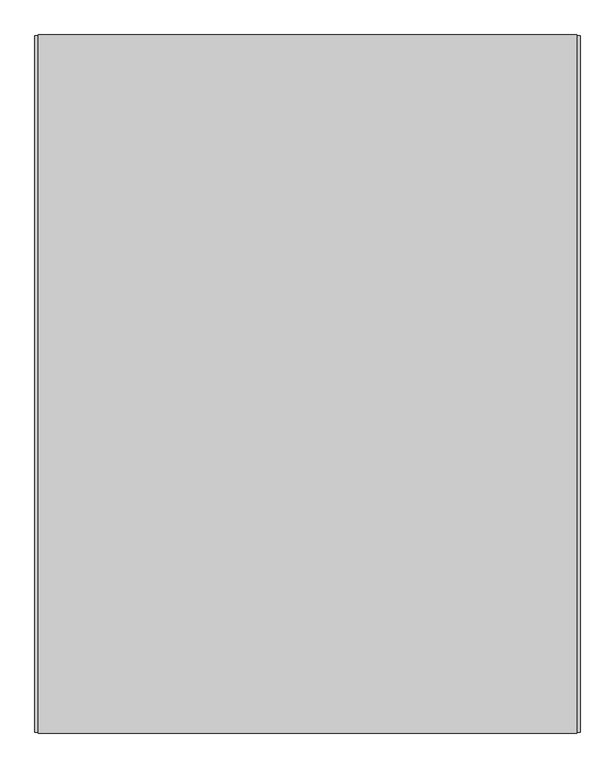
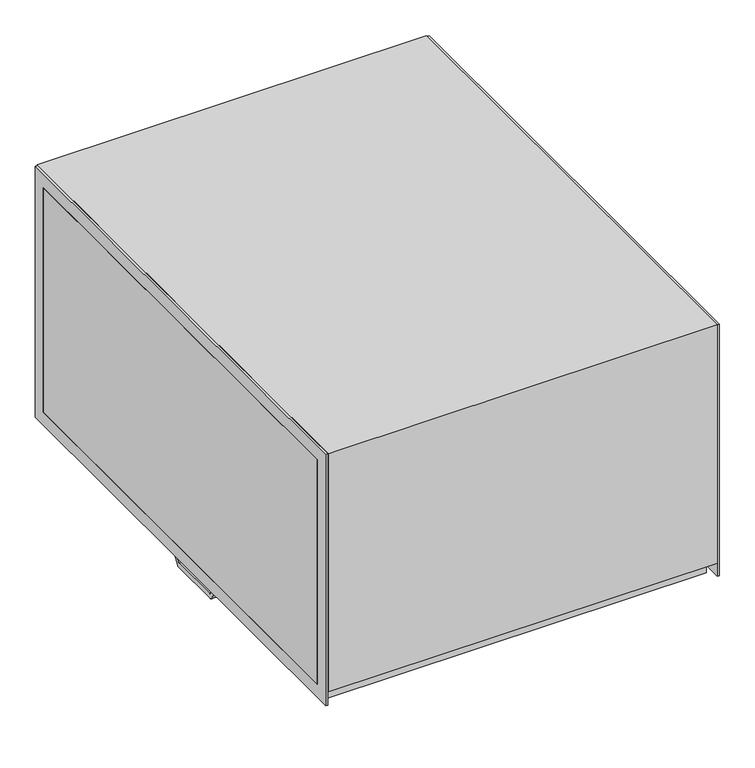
"""IFC4 building model written with IfcOpenShell, lengths in millimetres: unitary equipment geometry, VE-Wentylator-ParaForma-Harmann-DRBI_EC-Nawiewny : 100/50/11500TEC."""

from ifc_helpers import new_model, si_unit, point, frame, frame_2d, origin, place, context, project, spatial, polyline, circle_curve, trimmed, segment, composite_curve, outline, extrude, faceted_brep, source, transform, mapped, element, save


def unitary_equipment_98ae8f91(model_context):
    return source(origin(), model_context, "Body", "SolidModel", [
        faceted_brep([(-402.7, -497.5, -290.4), (-402.7, -497.5, -250.0), (-402.7, 497.5, -250.0), (-402.7, 497.5, -290.4), (406.3, -497.5, -290.4), (406.3, 497.5, -290.4), (406.3, 497.5, -250.0), (406.3, -497.5, -250.0), (-410.0, -531.0, -250.0), (-410.0, -531.0, 281.0), (-410.0, 531.0, 281.0), (-410.0, 531.0, -250.0), (-410.0, 500.0, -250.0), (-410.0, 500.0, 250.0), (-410.0, -500.0, 250.0), (-410.0, -500.0, -250.0), (410.0, 531.0, -250.0), (410.0, 531.0, 281.0), (410.0, -531.0, 281.0), (410.0, -531.0, -250.0), (410.0, -500.0, -250.0), (410.0, -500.0, 250.0), (410.0, 500.0, 250.0), (410.0, 500.0, -250.0), (-415.0, -500.0, -250.0), (-415.0, 500.0, -250.0), (415.0, 500.0, -250.0), (415.0, -500.0, -250.0), (-415.0, -500.0, 250.0), (-415.0, 500.0, 250.0), (415.0, 500.0, 250.0), (415.0, -500.0, 250.0)], [[[0, 1, 2, 3]], [[4, 5, 6, 7]], [[1, 0, 4, 7]], [[3, 2, 6, 5]], [[0, 3, 5, 4]], [[8, 9, 10, 11, 12, 13, 14, 15]], [[16, 17, 18, 19, 20, 21, 22, 23]], [[9, 8, 19, 18]], [[10, 9, 18, 17]], [[11, 10, 17, 16]], [[19, 8, 15, 24, 25, 12, 11, 16, 23, 26, 27, 20], [2, 1, 7, 6]], [[24, 28, 29, 25]], [[28, 24, 15, 14]], [[29, 28, 14, 13]], [[25, 29, 13, 12]], [[27, 26, 30, 31]], [[27, 31, 21, 20]], [[31, 30, 22, 21]], [[30, 26, 23, 22]]]),
        extrude(outline(polyline([(-530.0, -280.0), (-530.0, 280.0), (530.0, 280.0), (530.0, -280.0), (-530.0, -280.0)]), holes=[polyline([(-500.0, -250.0), (500.0, -250.0), (500.0, 250.0), (-500.0, 250.0), (-500.0, -250.0)])]), frame((410.0, 0.0, 0.0), z_axis=(1.0, 0.0, 0.0), x_axis=(0.0, 1.0, 0.0)), (0.0, 0.0, 1.0), 5.0),
        extrude(outline(polyline([(-530.0, -280.0), (-530.0, 280.0), (530.0, 280.0), (530.0, -280.0), (-530.0, -280.0)]), holes=[polyline([(-500.0, -250.0), (500.0, -250.0), (500.0, 250.0), (-500.0, 250.0), (-500.0, -250.0)])]), frame((-415.0, 0.0, 0.0), z_axis=(1.0, 0.0, 0.0), x_axis=(0.0, 1.0, 0.0)), (0.0, 0.0, 1.0), 5.0),
        extrude(outline(composite_curve([segment(polyline([(-85.0, -298.5), (-85.0, -285.5), (-60.0, -285.5), (-60.0, -322.5)]), True, "CONTINUOUS"), segment(trimmed(circle_curve(frame_2d((-55.0, -322.5)), 5.0), [point((-60.0, -322.5))], [point((-55.0, -327.5))], True, "CARTESIAN"), True, "CONTINUOUS"), segment(polyline([(-55.0, -327.5), (55.0, -327.5)]), True, "CONTINUOUS"), segment(trimmed(circle_curve(frame_2d((55.0, -322.5)), 5.0), [point((55.0, -327.5))], [point((60.0, -322.5))], True, "CARTESIAN"), True, "CONTINUOUS"), segment(polyline([(60.0, -322.5), (60.0, -285.5), (85.0, -285.5), (85.0, -298.5), (61.4754291, -335.1983306)]), True, "CONTINUOUS"), segment(trimmed(circle_curve(frame_2d((57.2660334, -332.5)), 5.0), [point((61.4754291, -335.1983306))], [point((57.2660334, -337.5))], False, "CARTESIAN"), True, "CONTINUOUS"), segment(polyline([(57.2660334, -337.5), (-57.2660334, -337.5)]), True, "CONTINUOUS"), segment(trimmed(circle_curve(frame_2d((-57.2660334, -332.5)), 5.0), [point((-57.2660334, -337.5))], [point((-61.4754291, -335.1983306))], False, "CARTESIAN"), True, "CONTINUOUS"), segment(polyline([(-61.4754291, -335.1983306), (-85.0, -298.5)]), True, "CONTINUOUS")], self_intersect=False)), frame((-385.4, 0.0, 0.0), z_axis=(1.0, 0.0, 0.0), x_axis=(0.0, 1.0, 0.0)), (0.0, 0.0, 1.0), 28.0),
        extrude(outline(composite_curve([segment(polyline([(380.2, -27.5), (295.2, -27.5)]), True, "CONTINUOUS"), segment(trimmed(circle_curve(frame_2d((295.2, -22.5)), 5.0), [point((295.2, -27.5))], [point((290.2, -22.5))], False, "CARTESIAN"), True, "CONTINUOUS"), segment(polyline([(290.2, -22.5), (290.2, 77.5)]), True, "CONTINUOUS"), segment(trimmed(circle_curve(frame_2d((295.2, 77.5)), 5.0), [point((290.2, 77.5))], [point((295.2, 82.5))], False, "CARTESIAN"), True, "CONTINUOUS"), segment(polyline([(295.2, 82.5), (380.2, 82.5)]), True, "CONTINUOUS"), segment(trimmed(circle_curve(frame_2d((380.2, 77.5)), 5.0), [point((380.2, 82.5))], [point((385.2, 77.5))], False, "CARTESIAN"), True, "CONTINUOUS"), segment(polyline([(385.2, 77.5), (385.2, -22.5)]), True, "CONTINUOUS"), segment(trimmed(circle_curve(frame_2d((380.2, -22.5)), 5.0), [point((385.2, -22.5))], [point((380.2, -27.5))], False, "CARTESIAN"), True, "CONTINUOUS")], self_intersect=False)), frame((0.0, 0.0, -339.9), z_axis=(0.0, 0.0, 1.0), x_axis=(1.0, 0.0, 0.0)), (0.0, 0.0, 1.0), 49.5),
    ])


if __name__ == "__main__":
    model = new_model("IFC4")
    model_context = context("Model", 3, world=origin())
    ifc_project = project(units=[si_unit("LENGTHUNIT", "METRE", prefix="MILLI")], contexts=[model_context])
    site = spatial("IfcSite", under=ifc_project)
    building = spatial("IfcBuilding", under=site)
    placement = place(None, origin())
    unitary_equipment_shape = unitary_equipment_98ae8f91(model_context)
    element("IfcUnitaryEquipment", 1, ObjectType="VE-Wentylator-ParaForma-Harmann-DRBI_EC-Nawiewny : 100/50/11500TEC", at=placement, inside=building, context=model_context, shape_type="MappedRepresentation", body=[
        mapped(unitary_equipment_shape, transform((0.0, 0.0, 0.0), x_axis=(1.0, 0.0, 0.0), y_axis=(0.0, 1.0, 0.0), z_axis=(0.0, 0.0, 1.0))),
    ])
    save(model, "model.ifc")
